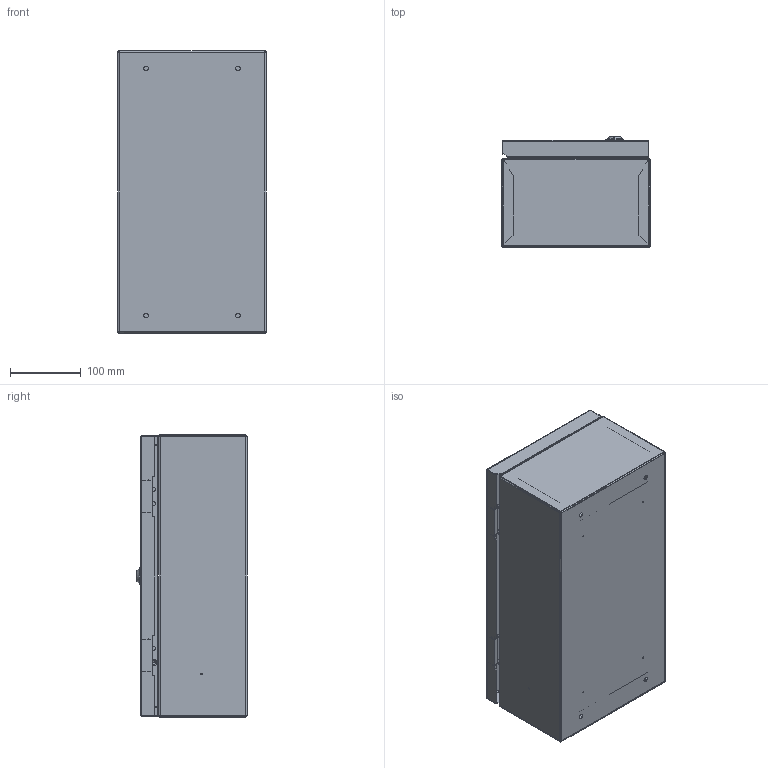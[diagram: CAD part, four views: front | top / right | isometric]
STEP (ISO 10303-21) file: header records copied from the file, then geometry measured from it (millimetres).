
FILE_DESCRIPTION (( 'STEP AP214' ), '1' );
FILE_NAME ('ÙÌÏ-421-400õ210õ150-IP31-ÓÕË3-ÊÝÀÇ.STEP', '2023-01-24T12:08:59', ( '' ), ( '' ), 'SwSTEP 2.0', 'SolidWorks 2018', '' );
FILE_SCHEMA (( 'AUTOMOTIVE_DESIGN' ));
Length unit declared in the file: millimetre
Products named in the file (1): ÙÌÏ-421-400õ210õ150-IP31-ÓÕË3-ÊÝÀÇ
Bounding box: 210 x 155.7 x 400 mm (x, y, z)
Surface area: 808230.1 mm2 (no closed solid volume)
Topology: 0 solids, 29 shells, 210 faces, 704 edges, 503 vertices
Faces by surface type: plane 117, cylinder 67, bspline 18, torus 4, cone 2, sphere 2
Entity records: 11077 total; most frequent: CARTESIAN_POINT 2794, DIRECTION 1210, ORIENTED_EDGE 1038, EDGE_CURVE 704, VERTEX_POINT 503, LINE 448, VECTOR 448, AXIS2_PLACEMENT_3D 381
